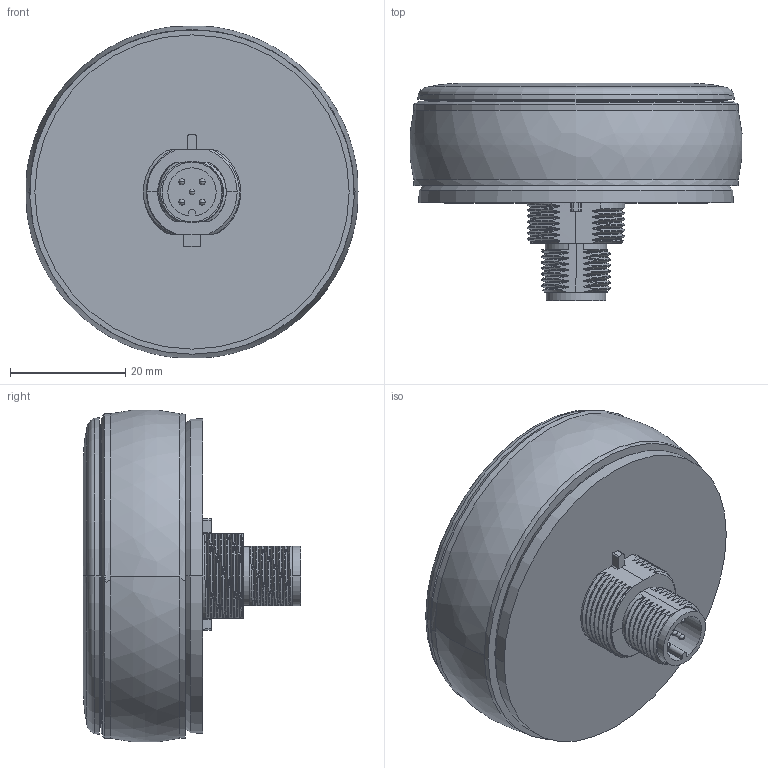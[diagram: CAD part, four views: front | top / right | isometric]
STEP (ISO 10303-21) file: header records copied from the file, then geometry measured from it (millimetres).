
FILE_DESCRIPTION((''),'2;1');
FILE_NAME('TEYY-X_MODELS','2022-10-17T',('kdooley'),(''),'PRO/ENGINEER BY PARAMETRIC TECHNOLOGY CORPORATION, 2016100','PRO/ENGINEER BY PARAMETRIC TECHNOLOGY CORPORATION, 2016100','');
FILE_SCHEMA(('CONFIG_CONTROL_DESIGN'));
Length unit declared in the file: inch
Products named in the file (1): TEYY-X_MODELS
Bounding box: 57.7 x 37.78 x 57.7 mm (x, y, z)
Volume: 53355.5 mm3; surface area: 10490.1 mm2
Topology: 1 solids, 13 shells, 364 faces, 1018 edges, 681 vertices
Faces by surface type: bspline 170, cylinder 95, plane 43, cone 30, torus 14, sphere 10, revolution 2
Entity records: 19805 total; most frequent: CARTESIAN_POINT 12014, ORIENTED_EDGE 2016, EDGE_CURVE 1008, DIRECTION 968, VERTEX_POINT 681, B_SPLINE_CURVE_WITH_KNOTS 616, AXIS2_PLACEMENT_3D 380, EDGE_LOOP 375
